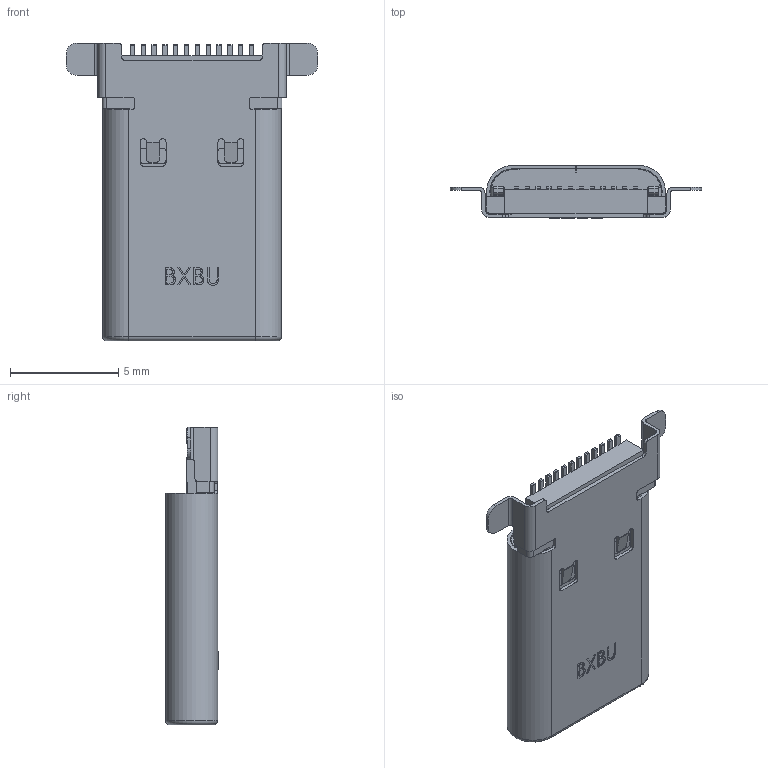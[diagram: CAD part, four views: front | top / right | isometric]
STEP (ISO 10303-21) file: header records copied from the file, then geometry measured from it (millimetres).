
FILE_DESCRIPTION (( 'STEP AP214' ), '1' );
FILE_NAME ('U5163-24PES0.95C13.75L.STEP', '2026-05-23T08:40:06', ( '' ), ( '' ), 'SwSTEP 2.0', 'SolidWorks 2024', '' );
FILE_SCHEMA (( 'AUTOMOTIVE_DESIGN' ));
Length unit declared in the file: millimetre
Products named in the file (1): U5163-24PES0.95C13.75L
Bounding box: 11.6 x 2.43 x 13.75 mm (x, y, z)
Volume: 199.9 mm3; surface area: 1294.6 mm2
Topology: 5 solids, 40 shells, 3187 faces, 9011 edges, 5848 vertices
Faces by surface type: plane 2523, cylinder 559, bspline 71, cone 28, torus 6
Entity records: 107008 total; most frequent: CARTESIAN_POINT 27856, ORIENTED_EDGE 18022, DIRECTION 14136, EDGE_CURVE 9011, LINE 5896, VECTOR 5896, VERTEX_POINT 5848, AXIS2_PLACEMENT_3D 4120
